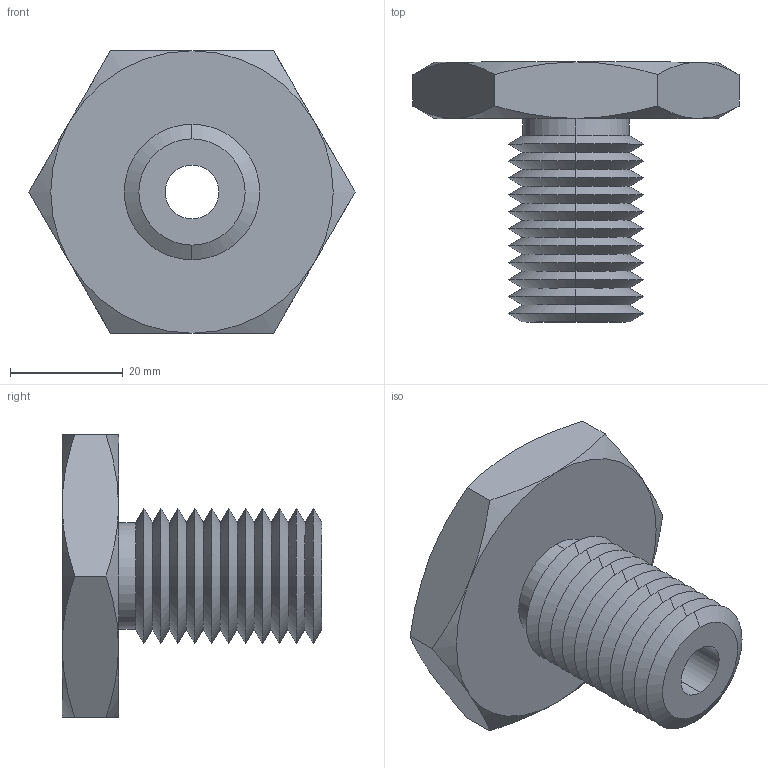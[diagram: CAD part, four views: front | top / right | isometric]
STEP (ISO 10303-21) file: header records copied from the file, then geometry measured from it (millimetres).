
FILE_DESCRIPTION (( 'STEP AP203' ), '1' );
FILE_NAME ('63302.W0024_0,37 UNC-16.step', '2013-12-08T11:04:25', ( 'User' ), ( '' ), 'SwSTEP 2.0', 'SolidWorks 2009', '' );
FILE_SCHEMA (( 'CONFIG_CONTROL_DESIGN' ));
Length unit declared in the file: millimetre
Products named in the file (1): 63302.W0024_0,37 UNC-16
Bounding box: 57.73 x 46 x 50 mm (x, y, z)
Volume: 30819 mm3; surface area: 11684 mm2
Topology: 1 solids, 1 shells, 71 faces, 146 edges, 78 vertices
Faces by surface type: cone 58, plane 9, cylinder 4
Entity records: 2039 total; most frequent: CARTESIAN_POINT 480, DIRECTION 332, ORIENTED_EDGE 292, EDGE_CURVE 146, AXIS2_PLACEMENT_3D 138, VERTEX_POINT 78, EDGE_LOOP 74, ADVANCED_FACE 71
